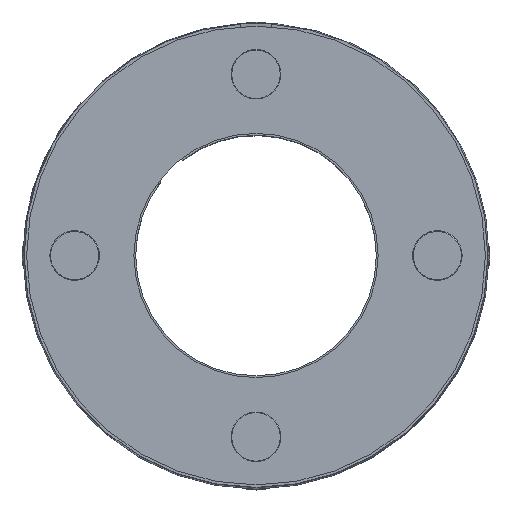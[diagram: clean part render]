
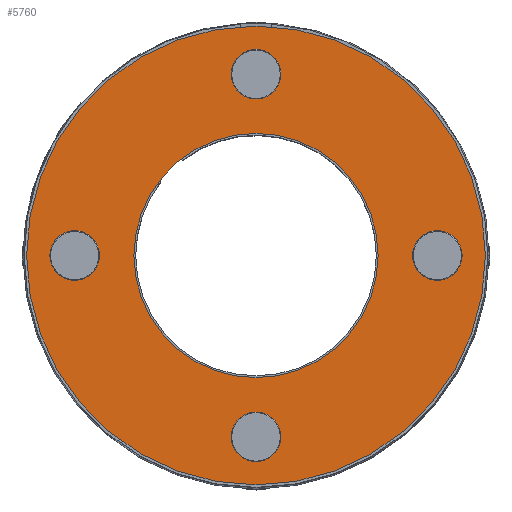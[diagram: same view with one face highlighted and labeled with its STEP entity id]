
A CAD part, top view. The second image highlights one B-rep face of the part: STEP entity #5760.
In plain terms, the highlighted planar face has unit normal (0, 0, 1).
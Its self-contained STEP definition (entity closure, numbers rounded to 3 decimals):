
#153 = CIRCLE ( 'NONE', #3045, 1.65 ) ;
#227 = DIRECTION ( 'NONE',  ( 0., 0., -1. ) ) ;
#238 = DIRECTION ( 'NONE',  ( 0., 0., -1. ) ) ;
#279 = AXIS2_PLACEMENT_3D ( 'NONE', #5241, #1815, #5834 ) ;
#325 = DIRECTION ( 'NONE',  ( -1., 0., 0. ) ) ;
#376 = EDGE_LOOP ( 'NONE', ( #3888, #1446 ) ) ;
#473 = CARTESIAN_POINT ( 'NONE',  ( 15.255, 0., 16.472 ) ) ;
#486 = FACE_OUTER_BOUND ( 'NONE', #1854, .T. ) ;
#671 = FACE_BOUND ( 'NONE', #1730, .T. ) ;
#719 = ORIENTED_EDGE ( 'NONE', *, *, #2307, .T. ) ;
#772 = EDGE_LOOP ( 'NONE', ( #1625, #6999 ) ) ;
#807 = EDGE_LOOP ( 'NONE', ( #719, #4440 ) ) ;
#814 = AXIS2_PLACEMENT_3D ( 'NONE', #3643, #238, #4218 ) ;
#897 = CARTESIAN_POINT ( 'NONE',  ( 10.41, 0., 16.472 ) ) ;
#924 = CIRCLE ( 'NONE', #5108, 8.121 ) ;
#929 = CARTESIAN_POINT ( 'NONE',  ( 12.06, 0., 16.472 ) ) ;
#1044 = EDGE_CURVE ( 'NONE', #4284, #3952, #1731, .T. ) ;
#1045 = DIRECTION ( 'NONE',  ( 0., 0., -1. ) ) ;
#1060 = EDGE_CURVE ( 'NONE', #5540, #3920, #6126, .T. ) ;
#1150 = EDGE_CURVE ( 'NONE', #3482, #1851, #4584, .T. ) ;
#1291 = EDGE_CURVE ( 'NONE', #3952, #4284, #5765, .T. ) ;
#1301 = VERTEX_POINT ( 'NONE', #473 ) ;
#1367 = CARTESIAN_POINT ( 'NONE',  ( -12.06, 0., 16.472 ) ) ;
#1423 = DIRECTION ( 'NONE',  ( 0., 0., -1. ) ) ;
#1439 = PLANE ( 'NONE',  #5553 ) ;
#1446 = ORIENTED_EDGE ( 'NONE', *, *, #2388, .T. ) ;
#1460 = EDGE_CURVE ( 'NONE', #3920, #5540, #153, .T. ) ;
#1499 = DIRECTION ( 'NONE',  ( -1., 0., 0. ) ) ;
#1625 = ORIENTED_EDGE ( 'NONE', *, *, #2927, .T. ) ;
#1730 = EDGE_LOOP ( 'NONE', ( #7000, #5531 ) ) ;
#1731 = CIRCLE ( 'NONE', #4378, 1.65 ) ;
#1754 = CARTESIAN_POINT ( 'NONE',  ( 0., 0., 16.472 ) ) ;
#1815 = DIRECTION ( 'NONE',  ( 0., 0., -1. ) ) ;
#1840 = DIRECTION ( 'NONE',  ( 0., 0., -1. ) ) ;
#1851 = VERTEX_POINT ( 'NONE', #4565 ) ;
#1854 = EDGE_LOOP ( 'NONE', ( #4429, #2979 ) ) ;
#1944 = DIRECTION ( 'NONE',  ( -1., 0., 0. ) ) ;
#2003 = FACE_BOUND ( 'NONE', #772, .T. ) ;
#2026 = DIRECTION ( 'NONE',  ( 0., 0., -1. ) ) ;
#2096 = CIRCLE ( 'NONE', #2187, 1.65 ) ;
#2104 = AXIS2_PLACEMENT_3D ( 'NONE', #1754, #5761, #2325 ) ;
#2144 = VERTEX_POINT ( 'NONE', #6635 ) ;
#2187 = AXIS2_PLACEMENT_3D ( 'NONE', #929, #4919, #1499 ) ;
#2188 = VERTEX_POINT ( 'NONE', #4490 ) ;
#2259 = CIRCLE ( 'NONE', #279, 15.255 ) ;
#2307 = EDGE_CURVE ( 'NONE', #2144, #2188, #3081, .T. ) ;
#2325 = DIRECTION ( 'NONE',  ( -1., 0., 0. ) ) ;
#2388 = EDGE_CURVE ( 'NONE', #1851, #3482, #2096, .T. ) ;
#2389 = AXIS2_PLACEMENT_3D ( 'NONE', #7182, #3737, #325 ) ;
#2446 = CARTESIAN_POINT ( 'NONE',  ( 0., 12.06, 16.472 ) ) ;
#2478 = CARTESIAN_POINT ( 'NONE',  ( 0., 0., 16.472 ) ) ;
#2524 = CARTESIAN_POINT ( 'NONE',  ( -1.65, -12.06, 16.472 ) ) ;
#2862 = VERTEX_POINT ( 'NONE', #5354 ) ;
#2927 = EDGE_CURVE ( 'NONE', #6437, #2862, #5165, .T. ) ;
#2979 = ORIENTED_EDGE ( 'NONE', *, *, #4759, .F. ) ;
#3018 = DIRECTION ( 'NONE',  ( -1., 0., 0. ) ) ;
#3042 = DIRECTION ( 'NONE',  ( -1., 0., 0. ) ) ;
#3045 = AXIS2_PLACEMENT_3D ( 'NONE', #5276, #1840, #5856 ) ;
#3081 = CIRCLE ( 'NONE', #814, 1.65 ) ;
#3482 = VERTEX_POINT ( 'NONE', #897 ) ;
#3513 = FACE_BOUND ( 'NONE', #807, .T. ) ;
#3634 = CARTESIAN_POINT ( 'NONE',  ( 0., -12.06, 16.472 ) ) ;
#3643 = CARTESIAN_POINT ( 'NONE',  ( 0., 12.06, 16.472 ) ) ;
#3666 = CARTESIAN_POINT ( 'NONE',  ( -10.41, 0., 16.472 ) ) ;
#3693 = FACE_BOUND ( 'NONE', #376, .T. ) ;
#3713 = AXIS2_PLACEMENT_3D ( 'NONE', #4458, #1045, #5026 ) ;
#3731 = EDGE_CURVE ( 'NONE', #2188, #2144, #4228, .T. ) ;
#3737 = DIRECTION ( 'NONE',  ( 0., 0., -1. ) ) ;
#3888 = ORIENTED_EDGE ( 'NONE', *, *, #1150, .T. ) ;
#3920 = VERTEX_POINT ( 'NONE', #3666 ) ;
#3952 = VERTEX_POINT ( 'NONE', #2524 ) ;
#4092 = EDGE_LOOP ( 'NONE', ( #4625, #5051 ) ) ;
#4210 = DIRECTION ( 'NONE',  ( -1., 0., 0. ) ) ;
#4218 = DIRECTION ( 'NONE',  ( -1., 0., 0. ) ) ;
#4228 = CIRCLE ( 'NONE', #6025, 1.65 ) ;
#4284 = VERTEX_POINT ( 'NONE', #7077 ) ;
#4355 = CARTESIAN_POINT ( 'NONE',  ( -8.121, 0., 16.472 ) ) ;
#4378 = AXIS2_PLACEMENT_3D ( 'NONE', #3634, #227, #4210 ) ;
#4429 = ORIENTED_EDGE ( 'NONE', *, *, #6651, .F. ) ;
#4440 = ORIENTED_EDGE ( 'NONE', *, *, #3731, .T. ) ;
#4458 = CARTESIAN_POINT ( 'NONE',  ( 0., -12.06, 16.472 ) ) ;
#4490 = CARTESIAN_POINT ( 'NONE',  ( 1.65, 12.06, 16.472 ) ) ;
#4565 = CARTESIAN_POINT ( 'NONE',  ( 13.71, 0., 16.472 ) ) ;
#4584 = CIRCLE ( 'NONE', #6285, 1.65 ) ;
#4625 = ORIENTED_EDGE ( 'NONE', *, *, #1060, .T. ) ;
#4758 = AXIS2_PLACEMENT_3D ( 'NONE', #1367, #5383, #1944 ) ;
#4759 = EDGE_CURVE ( 'NONE', #1301, #5836, #2259, .T. ) ;
#4833 = CARTESIAN_POINT ( 'NONE',  ( 12.06, 0., 16.472 ) ) ;
#4919 = DIRECTION ( 'NONE',  ( 0., 0., -1. ) ) ;
#4974 = CARTESIAN_POINT ( 'NONE',  ( -15.255, 0., 16.472 ) ) ;
#5026 = DIRECTION ( 'NONE',  ( -1., 0., 0. ) ) ;
#5034 = FACE_BOUND ( 'NONE', #4092, .T. ) ;
#5051 = ORIENTED_EDGE ( 'NONE', *, *, #1460, .T. ) ;
#5108 = AXIS2_PLACEMENT_3D ( 'NONE', #2478, #6478, #3042 ) ;
#5165 = CIRCLE ( 'NONE', #2389, 8.121 ) ;
#5241 = CARTESIAN_POINT ( 'NONE',  ( 0., 0., 16.472 ) ) ;
#5276 = CARTESIAN_POINT ( 'NONE',  ( -12.06, 0., 16.472 ) ) ;
#5354 = CARTESIAN_POINT ( 'NONE',  ( 8.121, 0., 16.472 ) ) ;
#5383 = DIRECTION ( 'NONE',  ( 0., 0., -1. ) ) ;
#5427 = DIRECTION ( 'NONE',  ( -1., 0., 0. ) ) ;
#5470 = CARTESIAN_POINT ( 'NONE',  ( 0., 0., 16.472 ) ) ;
#5531 = ORIENTED_EDGE ( 'NONE', *, *, #1044, .T. ) ;
#5540 = VERTEX_POINT ( 'NONE', #7028 ) ;
#5553 = AXIS2_PLACEMENT_3D ( 'NONE', #5470, #2026, #6048 ) ;
#5760 = ADVANCED_FACE ( 'NONE', ( #5034, #671, #3693, #3513, #2003, #486 ), #1439, .F. ) ;
#5761 = DIRECTION ( 'NONE',  ( 0., 0., -1. ) ) ;
#5765 = CIRCLE ( 'NONE', #3713, 1.65 ) ;
#5834 = DIRECTION ( 'NONE',  ( -1., 0., 0. ) ) ;
#5836 = VERTEX_POINT ( 'NONE', #4974 ) ;
#5856 = DIRECTION ( 'NONE',  ( -1., 0., 0. ) ) ;
#6024 = EDGE_CURVE ( 'NONE', #2862, #6437, #924, .T. ) ;
#6025 = AXIS2_PLACEMENT_3D ( 'NONE', #2446, #6455, #3018 ) ;
#6048 = DIRECTION ( 'NONE',  ( -1., 0., 0. ) ) ;
#6126 = CIRCLE ( 'NONE', #4758, 1.65 ) ;
#6285 = AXIS2_PLACEMENT_3D ( 'NONE', #4833, #1423, #5427 ) ;
#6437 = VERTEX_POINT ( 'NONE', #4355 ) ;
#6455 = DIRECTION ( 'NONE',  ( 0., 0., -1. ) ) ;
#6478 = DIRECTION ( 'NONE',  ( 0., 0., -1. ) ) ;
#6635 = CARTESIAN_POINT ( 'NONE',  ( -1.65, 12.06, 16.472 ) ) ;
#6651 = EDGE_CURVE ( 'NONE', #5836, #1301, #7069, .T. ) ;
#6999 = ORIENTED_EDGE ( 'NONE', *, *, #6024, .T. ) ;
#7000 = ORIENTED_EDGE ( 'NONE', *, *, #1291, .T. ) ;
#7028 = CARTESIAN_POINT ( 'NONE',  ( -13.71, 0., 16.472 ) ) ;
#7069 = CIRCLE ( 'NONE', #2104, 15.255 ) ;
#7077 = CARTESIAN_POINT ( 'NONE',  ( 1.65, -12.06, 16.472 ) ) ;
#7182 = CARTESIAN_POINT ( 'NONE',  ( 0., 0., 16.472 ) ) ;
